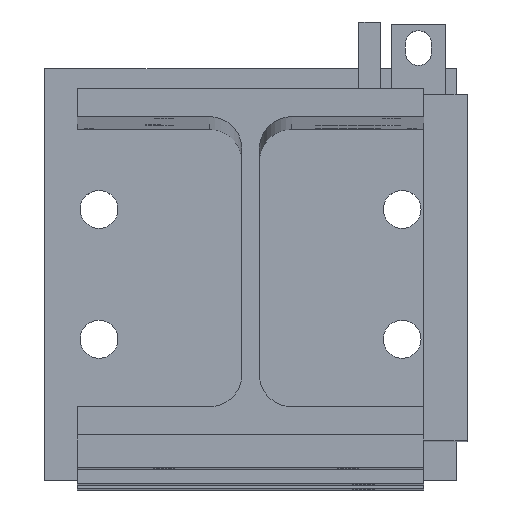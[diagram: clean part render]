
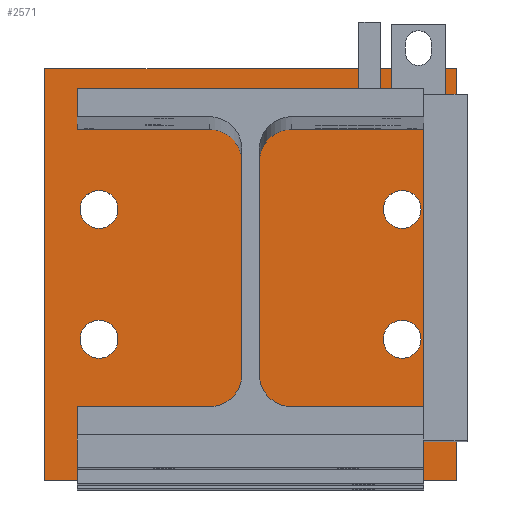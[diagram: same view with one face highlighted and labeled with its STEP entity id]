
A CAD part, top view. The second image highlights one B-rep face of the part: STEP entity #2571.
In plain terms, the highlighted planar face has unit normal (0, 0, 1).
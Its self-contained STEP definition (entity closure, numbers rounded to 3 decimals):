
#99=FACE_BOUND('',#421,.T.);
#100=FACE_BOUND('',#422,.T.);
#101=FACE_BOUND('',#423,.T.);
#102=FACE_BOUND('',#424,.T.);
#211=PLANE('',#2892);
#281=FACE_OUTER_BOUND('',#420,.T.);
#420=EDGE_LOOP('',(#1836,#1837,#1838,#1839));
#421=EDGE_LOOP('',(#1840));
#422=EDGE_LOOP('',(#1841));
#423=EDGE_LOOP('',(#1842));
#424=EDGE_LOOP('',(#1843));
#665=LINE('',#3997,#882);
#668=LINE('',#4003,#885);
#671=LINE('',#4009,#888);
#674=LINE('',#4013,#891);
#882=VECTOR('',#3201,10.);
#885=VECTOR('',#3206,10.);
#888=VECTOR('',#3211,10.);
#891=VECTOR('',#3216,10.);
#1093=CIRCLE('',#2877,8.75);
#1095=CIRCLE('',#2880,8.75);
#1097=CIRCLE('',#2883,8.75);
#1099=CIRCLE('',#2886,8.75);
#1225=VERTEX_POINT('',#3967);
#1227=VERTEX_POINT('',#3973);
#1229=VERTEX_POINT('',#3979);
#1231=VERTEX_POINT('',#3985);
#1235=VERTEX_POINT('',#3994);
#1236=VERTEX_POINT('',#3996);
#1238=VERTEX_POINT('',#4002);
#1240=VERTEX_POINT('',#4008);
#1455=EDGE_CURVE('',#1225,#1225,#1093,.T.);
#1458=EDGE_CURVE('',#1227,#1227,#1095,.T.);
#1461=EDGE_CURVE('',#1229,#1229,#1097,.T.);
#1464=EDGE_CURVE('',#1231,#1231,#1099,.T.);
#1469=EDGE_CURVE('',#1236,#1235,#665,.T.);
#1472=EDGE_CURVE('',#1238,#1236,#668,.T.);
#1475=EDGE_CURVE('',#1240,#1238,#671,.T.);
#1478=EDGE_CURVE('',#1235,#1240,#674,.T.);
#1836=ORIENTED_EDGE('',*,*,#1478,.T.);
#1837=ORIENTED_EDGE('',*,*,#1475,.T.);
#1838=ORIENTED_EDGE('',*,*,#1472,.T.);
#1839=ORIENTED_EDGE('',*,*,#1469,.T.);
#1840=ORIENTED_EDGE('',*,*,#1455,.T.);
#1841=ORIENTED_EDGE('',*,*,#1458,.T.);
#1842=ORIENTED_EDGE('',*,*,#1461,.T.);
#1843=ORIENTED_EDGE('',*,*,#1464,.T.);
#2571=ADVANCED_FACE('',(#281,#99,#100,#101,#102),#211,.T.);
#2877=AXIS2_PLACEMENT_3D('',#3968,#3171,#3172);
#2880=AXIS2_PLACEMENT_3D('',#3974,#3178,#3179);
#2883=AXIS2_PLACEMENT_3D('',#3980,#3185,#3186);
#2886=AXIS2_PLACEMENT_3D('',#3986,#3192,#3193);
#2892=AXIS2_PLACEMENT_3D('',#4014,#3217,#3218);
#3171=DIRECTION('center_axis',(0.,0.,-1.));
#3172=DIRECTION('ref_axis',(1.,0.,0.));
#3178=DIRECTION('center_axis',(0.,0.,-1.));
#3179=DIRECTION('ref_axis',(1.,0.,0.));
#3185=DIRECTION('center_axis',(0.,0.,-1.));
#3186=DIRECTION('ref_axis',(1.,0.,0.));
#3192=DIRECTION('center_axis',(0.,0.,-1.));
#3193=DIRECTION('ref_axis',(1.,0.,0.));
#3201=DIRECTION('',(0.,-1.,0.));
#3206=DIRECTION('',(-1.,0.,0.));
#3211=DIRECTION('',(0.,1.,0.));
#3216=DIRECTION('',(1.,0.,0.));
#3217=DIRECTION('center_axis',(0.,0.,1.));
#3218=DIRECTION('ref_axis',(1.,0.,0.));
#3967=CARTESIAN_POINT('',(-78.75,30.,15.));
#3968=CARTESIAN_POINT('Origin',(-70.,30.,15.));
#3973=CARTESIAN_POINT('',(61.25,-30.,15.));
#3974=CARTESIAN_POINT('Origin',(70.,-30.,15.));
#3979=CARTESIAN_POINT('',(61.25,30.,15.));
#3980=CARTESIAN_POINT('Origin',(70.,30.,15.));
#3985=CARTESIAN_POINT('',(-78.75,-30.,15.));
#3986=CARTESIAN_POINT('Origin',(-70.,-30.,15.));
#3994=CARTESIAN_POINT('',(-95.,-95.,15.));
#3996=CARTESIAN_POINT('',(-95.,95.,15.));
#3997=CARTESIAN_POINT('',(-95.,95.,15.));
#4002=CARTESIAN_POINT('',(95.,95.,15.));
#4003=CARTESIAN_POINT('',(95.,95.,15.));
#4008=CARTESIAN_POINT('',(95.,-95.,15.));
#4009=CARTESIAN_POINT('',(95.,-95.,15.));
#4013=CARTESIAN_POINT('',(-95.,-95.,15.));
#4014=CARTESIAN_POINT('Origin',(0.,0.,15.));
